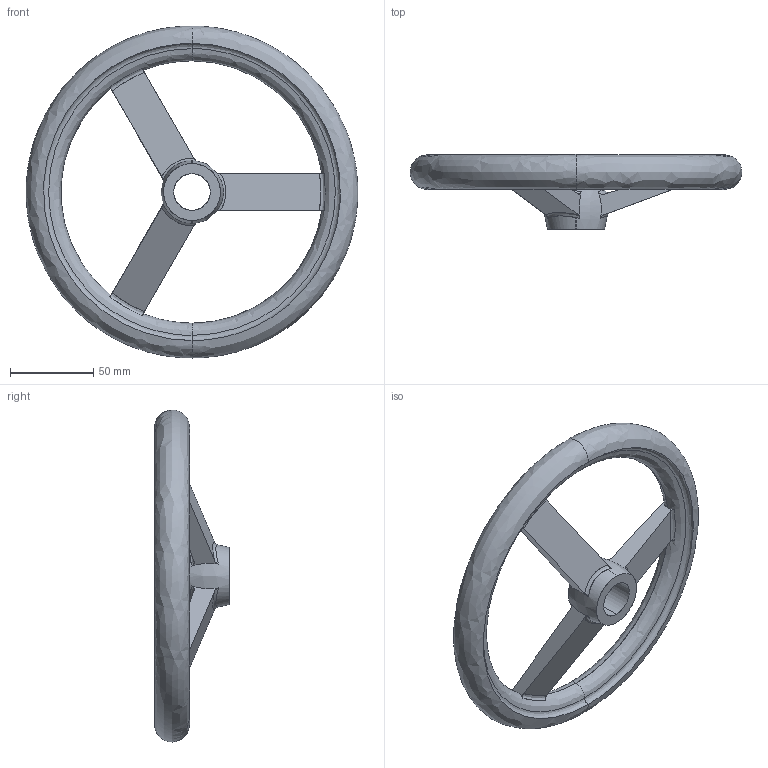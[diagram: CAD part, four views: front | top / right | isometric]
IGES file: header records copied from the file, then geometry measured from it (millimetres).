
Start section: SolidWorks IGES file using analytic representation for surfaces
Global section: file name: C:\Users\IanO\Desktop\Temp File\Process pending\77120_v2\77120_v2_20171108_IGES\77120.W0031.igs; native system: SolidWorks 2017; preprocessor: SolidWorks 2017; author: IanO; date: 171108.084052; units: millimetre
Bounding box: 200 x 45 x 200 mm (x, y, z)
Surface area: 54169.6 mm2 (no closed solid volume)
Topology: 0 solids, 0 shells, 43 faces, 925 edges, 918 vertices
Faces by surface type: bspline 41, revolution 2
